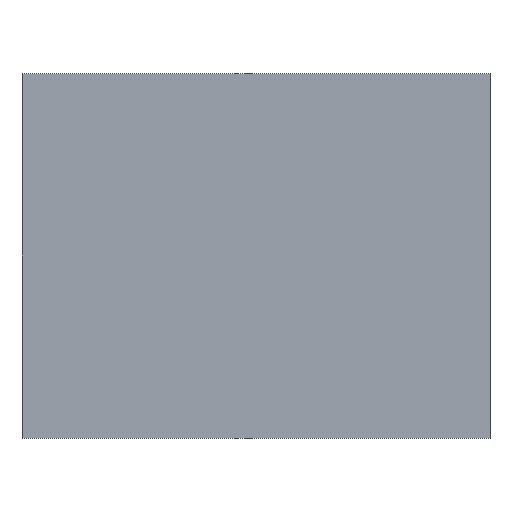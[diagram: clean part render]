
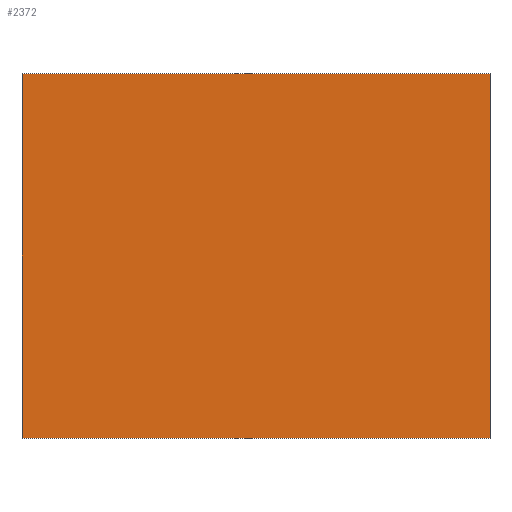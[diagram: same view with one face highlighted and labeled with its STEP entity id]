
A CAD part, front view. The second image highlights one B-rep face of the part: STEP entity #2372.
In plain terms, the highlighted planar face has unit normal (0, -1, 0).
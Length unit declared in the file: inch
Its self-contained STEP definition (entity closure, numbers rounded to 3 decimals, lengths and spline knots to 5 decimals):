
#63 = EDGE_LOOP ( 'NONE', ( #1001, #2079, #1699, #737 ) ) ;
#89 = CARTESIAN_POINT ( 'NONE',  ( 11.19487, -8., -8.71237 ) ) ;
#92 = VECTOR ( 'NONE', #2265, 39.37008 ) ;
#107 = CARTESIAN_POINT ( 'NONE',  ( -10.405, -8., 7.9225 ) ) ;
#187 = DIRECTION ( 'NONE',  ( 1., 0., 0. ) ) ;
#202 = LINE ( 'NONE', #746, #1606 ) ;
#286 = EDGE_CURVE ( 'NONE', #414, #643, #708, .T. ) ;
#414 = VERTEX_POINT ( 'NONE', #89 ) ;
#448 = CARTESIAN_POINT ( 'NONE',  ( -11.19487, -8., -8.71237 ) ) ;
#518 = CARTESIAN_POINT ( 'NONE',  ( 11.19487, -8., 8.71237 ) ) ;
#643 = VERTEX_POINT ( 'NONE', #2330 ) ;
#708 = LINE ( 'NONE', #518, #2590 ) ;
#737 = ORIENTED_EDGE ( 'NONE', *, *, #1157, .T. ) ;
#746 = CARTESIAN_POINT ( 'NONE',  ( 11.19487, -8., -8.71237 ) ) ;
#808 = DIRECTION ( 'NONE',  ( 0., 0., -1. ) ) ;
#1001 = ORIENTED_EDGE ( 'NONE', *, *, #286, .T. ) ;
#1085 = LINE ( 'NONE', #1348, #1566 ) ;
#1143 = FACE_OUTER_BOUND ( 'NONE', #63, .T. ) ;
#1157 = EDGE_CURVE ( 'NONE', #1192, #414, #202, .T. ) ;
#1161 = DIRECTION ( 'NONE',  ( 0., 1., 0. ) ) ;
#1192 = VERTEX_POINT ( 'NONE', #448 ) ;
#1266 = CARTESIAN_POINT ( 'NONE',  ( 11.19487, -8., 8.71237 ) ) ;
#1348 = CARTESIAN_POINT ( 'NONE',  ( -11.19487, -8., 8.71237 ) ) ;
#1458 = AXIS2_PLACEMENT_3D ( 'NONE', #107, #1161, #2901 ) ;
#1566 = VECTOR ( 'NONE', #808, 39.37008 ) ;
#1606 = VECTOR ( 'NONE', #187, 39.37008 ) ;
#1699 = ORIENTED_EDGE ( 'NONE', *, *, #3182, .T. ) ;
#1774 = LINE ( 'NONE', #1266, #92 ) ;
#1775 = CARTESIAN_POINT ( 'NONE',  ( -11.19487, -8., 8.71237 ) ) ;
#1917 = EDGE_CURVE ( 'NONE', #643, #2778, #1774, .T. ) ;
#2079 = ORIENTED_EDGE ( 'NONE', *, *, #1917, .T. ) ;
#2265 = DIRECTION ( 'NONE',  ( -1., 0., 0. ) ) ;
#2330 = CARTESIAN_POINT ( 'NONE',  ( 11.19487, -8., 8.71237 ) ) ;
#2372 = ADVANCED_FACE ( 'NONE', ( #1143 ), #2413, .F. ) ;
#2413 = PLANE ( 'NONE',  #1458 ) ;
#2512 = DIRECTION ( 'NONE',  ( 0., 0., 1. ) ) ;
#2590 = VECTOR ( 'NONE', #2512, 39.37008 ) ;
#2778 = VERTEX_POINT ( 'NONE', #1775 ) ;
#2901 = DIRECTION ( 'NONE',  ( 0., 0., 1. ) ) ;
#3182 = EDGE_CURVE ( 'NONE', #2778, #1192, #1085, .T. ) ;
